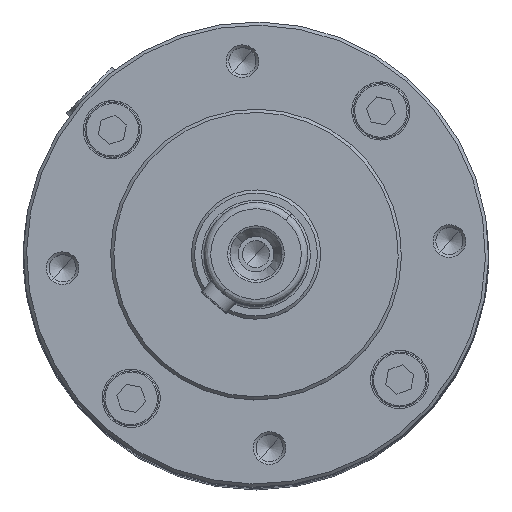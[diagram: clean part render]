
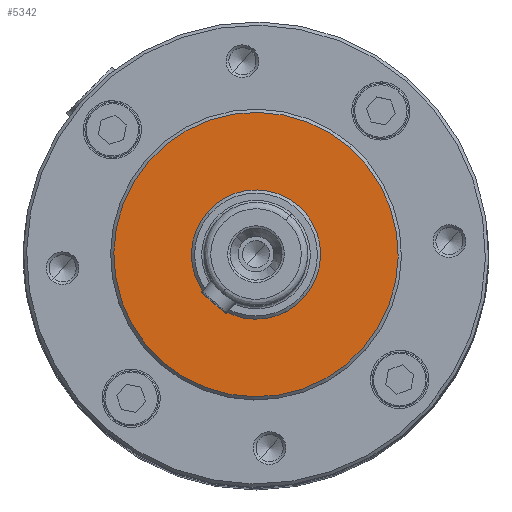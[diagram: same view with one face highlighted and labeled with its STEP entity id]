
A CAD part, top view. The second image highlights one B-rep face of the part: STEP entity #5342.
In plain terms, the highlighted planar face has unit normal (0, 0, 1) as drawn and (0, 1, 0) by its records, which use the part's own axes.
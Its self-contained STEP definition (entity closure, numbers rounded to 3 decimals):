
#52 = PLANE ( 'NONE',  #2747 ) ;
#121 = VERTEX_POINT ( 'NONE', #760 ) ;
#243 = DIRECTION ( 'NONE',  ( 0., -1., 0. ) ) ;
#629 = VERTEX_POINT ( 'NONE', #2900 ) ;
#736 = EDGE_LOOP ( 'NONE', ( #7066, #1690 ) ) ;
#760 = CARTESIAN_POINT ( 'NONE',  ( 0., 36.5, 22. ) ) ;
#903 = CIRCLE ( 'NONE', #5180, 10. ) ;
#1133 = CARTESIAN_POINT ( 'NONE',  ( 0., 36.5, 0. ) ) ;
#1216 = CIRCLE ( 'NONE', #3401, 22. ) ;
#1287 = DIRECTION ( 'NONE',  ( 0., 0., -1. ) ) ;
#1313 = DIRECTION ( 'NONE',  ( 0., -1., 0. ) ) ;
#1475 = CARTESIAN_POINT ( 'NONE',  ( 0., 36.5, 0. ) ) ;
#1690 = ORIENTED_EDGE ( 'NONE', *, *, #5455, .T. ) ;
#2050 = CARTESIAN_POINT ( 'NONE',  ( 0., 36.5, -10. ) ) ;
#2146 = CARTESIAN_POINT ( 'NONE',  ( 0., 36.5, -22. ) ) ;
#2519 = EDGE_CURVE ( 'NONE', #2692, #629, #4793, .T. ) ;
#2692 = VERTEX_POINT ( 'NONE', #2050 ) ;
#2747 = AXIS2_PLACEMENT_3D ( 'NONE', #3642, #4184, #5921 ) ;
#2900 = CARTESIAN_POINT ( 'NONE',  ( 0., 36.5, 10. ) ) ;
#3094 = ORIENTED_EDGE ( 'NONE', *, *, #4834, .F. ) ;
#3401 = AXIS2_PLACEMENT_3D ( 'NONE', #6478, #1313, #5301 ) ;
#3642 = CARTESIAN_POINT ( 'NONE',  ( 0., 36.5, 0. ) ) ;
#3928 = DIRECTION ( 'NONE',  ( 0., -1., 0. ) ) ;
#4184 = DIRECTION ( 'NONE',  ( 0., 1., 0. ) ) ;
#4686 = FACE_BOUND ( 'NONE', #736, .T. ) ;
#4793 = CIRCLE ( 'NONE', #6627, 10. ) ;
#4834 = EDGE_CURVE ( 'NONE', #7267, #121, #5795, .T. ) ;
#5118 = DIRECTION ( 'NONE',  ( 0., -1., 0. ) ) ;
#5180 = AXIS2_PLACEMENT_3D ( 'NONE', #1475, #243, #6033 ) ;
#5301 = DIRECTION ( 'NONE',  ( 0., 0., -1. ) ) ;
#5302 = FACE_OUTER_BOUND ( 'NONE', #5724, .T. ) ;
#5342 = ADVANCED_FACE ( 'NONE', ( #4686, #5302 ), #52, .T. ) ;
#5455 = EDGE_CURVE ( 'NONE', #629, #2692, #903, .T. ) ;
#5602 = ORIENTED_EDGE ( 'NONE', *, *, #6885, .F. ) ;
#5724 = EDGE_LOOP ( 'NONE', ( #3094, #5602 ) ) ;
#5795 = CIRCLE ( 'NONE', #6047, 22. ) ;
#5888 = CARTESIAN_POINT ( 'NONE',  ( 0., 36.5, 0. ) ) ;
#5921 = DIRECTION ( 'NONE',  ( 0., 0., 1. ) ) ;
#6033 = DIRECTION ( 'NONE',  ( 0., 0., -1. ) ) ;
#6047 = AXIS2_PLACEMENT_3D ( 'NONE', #1133, #3928, #6979 ) ;
#6478 = CARTESIAN_POINT ( 'NONE',  ( 0., 36.5, 0. ) ) ;
#6627 = AXIS2_PLACEMENT_3D ( 'NONE', #5888, #5118, #1287 ) ;
#6885 = EDGE_CURVE ( 'NONE', #121, #7267, #1216, .T. ) ;
#6979 = DIRECTION ( 'NONE',  ( 0., 0., -1. ) ) ;
#7066 = ORIENTED_EDGE ( 'NONE', *, *, #2519, .T. ) ;
#7267 = VERTEX_POINT ( 'NONE', #2146 ) ;
